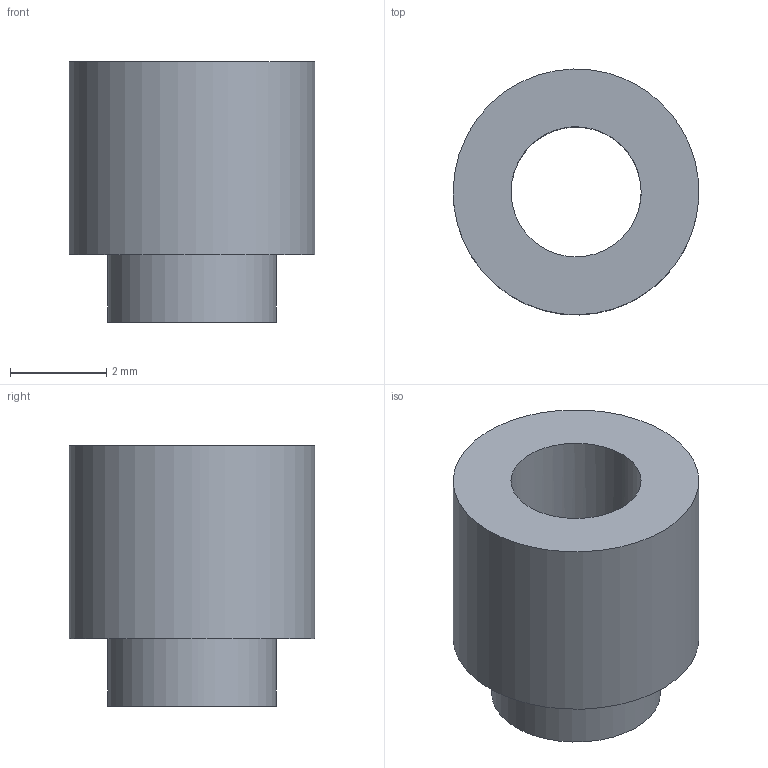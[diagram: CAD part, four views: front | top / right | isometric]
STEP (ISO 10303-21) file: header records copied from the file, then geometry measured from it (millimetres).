
FILE_DESCRIPTION(('FreeCAD Model'),'2;1');
FILE_NAME('Open CASCADE Shape Model','2026-03-20T17:23:11',('Author'),( ''),'Open CASCADE STEP processor 7.8','FreeCAD','Unknown');
FILE_SCHEMA(('AP242_MANAGED_MODEL_BASED_3D_ENGINEERING_MIM_LF. {1 0 10303 442 1 1 4 }'));
Length unit declared in the file: millimetre
Products named in the file (1): 1_transformed
Bounding box: 5.1 x 5.1 x 5.4 mm (x, y, z)
Volume: 64.9 mm3; surface area: 155 mm2
Topology: 1 solids, 1 shells, 6 faces, 10 edges, 7 vertices
Faces by surface type: bspline 6
Entity records: 209 total; most frequent: CARTESIAN_POINT 113, ORIENTED_EDGE 20, EDGE_CURVE 10, FACE_BOUND 9, EDGE_LOOP 9, VERTEX_POINT 7, ADVANCED_FACE 6, B_SPLINE_SURFACE_WITH_KNOTS 3
